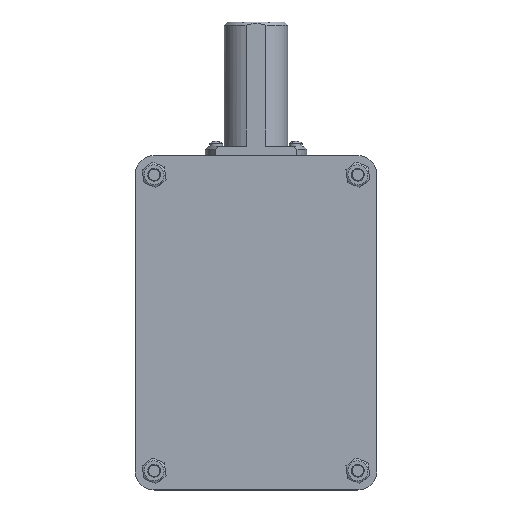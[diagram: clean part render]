
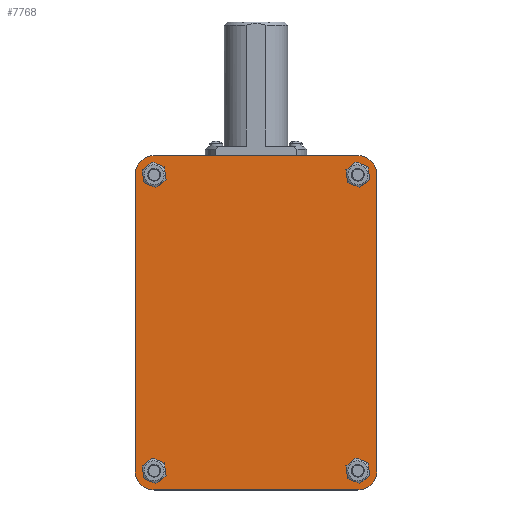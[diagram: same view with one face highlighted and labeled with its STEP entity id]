
A CAD part, top view. The second image highlights one B-rep face of the part: STEP entity #7768.
In plain terms, the highlighted planar face has unit normal (0, 0, 1).
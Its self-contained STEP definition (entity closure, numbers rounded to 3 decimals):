
#203 = VECTOR ( 'NONE', #8912, 1000. ) ;
#218 = DIRECTION ( 'NONE',  ( 1., 0., 0. ) ) ;
#282 = CARTESIAN_POINT ( 'NONE',  ( 38., 46.5, 20. ) ) ;
#294 = CARTESIAN_POINT ( 'NONE',  ( -34.25, -46.5, 20. ) ) ;
#387 = DIRECTION ( 'NONE',  ( 1., 0., 0. ) ) ;
#442 = CIRCLE ( 'NONE', #7318, 2.25 ) ;
#487 = AXIS2_PLACEMENT_3D ( 'NONE', #1268, #7048, #4117 ) ;
#573 = CIRCLE ( 'NONE', #487, 2.25 ) ;
#584 = DIRECTION ( 'NONE',  ( 0., 0., 1. ) ) ;
#715 = EDGE_CURVE ( 'NONE', #10602, #7169, #5070, .T. ) ;
#730 = CARTESIAN_POINT ( 'NONE',  ( -32., 52.5, 20. ) ) ;
#797 = CARTESIAN_POINT ( 'NONE',  ( 32., 46.5, 20. ) ) ;
#822 = AXIS2_PLACEMENT_3D ( 'NONE', #10113, #3338, #387 ) ;
#924 = EDGE_CURVE ( 'NONE', #7169, #2679, #1977, .T. ) ;
#970 = CARTESIAN_POINT ( 'NONE',  ( -38., 46.5, 20. ) ) ;
#1268 = CARTESIAN_POINT ( 'NONE',  ( -32., 46.5, 20. ) ) ;
#1303 = VERTEX_POINT ( 'NONE', #11254 ) ;
#1365 = EDGE_CURVE ( 'NONE', #10578, #9099, #3194, .T. ) ;
#1420 = CARTESIAN_POINT ( 'NONE',  ( -32., 52.5, 20. ) ) ;
#1448 = CARTESIAN_POINT ( 'NONE',  ( -32., -46.5, 20. ) ) ;
#1518 = VERTEX_POINT ( 'NONE', #10160 ) ;
#1608 = EDGE_CURVE ( 'NONE', #9358, #3332, #573, .T. ) ;
#1613 = CARTESIAN_POINT ( 'NONE',  ( 32., -46.5, 20. ) ) ;
#1684 = CARTESIAN_POINT ( 'NONE',  ( 29.75, 46.5, 20. ) ) ;
#1743 = CARTESIAN_POINT ( 'NONE',  ( 32., 52.5, 20. ) ) ;
#1787 = CARTESIAN_POINT ( 'NONE',  ( -38., -46.5, 20. ) ) ;
#1977 = CIRCLE ( 'NONE', #2537, 6. ) ;
#2012 = CARTESIAN_POINT ( 'NONE',  ( -32., 46.5, 20. ) ) ;
#2042 = CARTESIAN_POINT ( 'NONE',  ( -32., -52.5, 20. ) ) ;
#2168 = CARTESIAN_POINT ( 'NONE',  ( -32., -46.5, 20. ) ) ;
#2188 = DIRECTION ( 'NONE',  ( 0., 0., 1. ) ) ;
#2389 = ORIENTED_EDGE ( 'NONE', *, *, #3647, .F. ) ;
#2527 = CIRCLE ( 'NONE', #9957, 2.25 ) ;
#2537 = AXIS2_PLACEMENT_3D ( 'NONE', #5780, #11618, #10623 ) ;
#2606 = EDGE_CURVE ( 'NONE', #7093, #5895, #9599, .T. ) ;
#2656 = PLANE ( 'NONE',  #5088 ) ;
#2661 = EDGE_CURVE ( 'NONE', #4919, #10602, #3313, .T. ) ;
#2679 = VERTEX_POINT ( 'NONE', #970 ) ;
#2706 = EDGE_LOOP ( 'NONE', ( #8157, #3048, #4694, #8886, #3877, #8928, #4684, #9299 ) ) ;
#2823 = ORIENTED_EDGE ( 'NONE', *, *, #8932, .F. ) ;
#3048 = ORIENTED_EDGE ( 'NONE', *, *, #715, .T. ) ;
#3056 = FACE_BOUND ( 'NONE', #5244, .T. ) ;
#3119 = DIRECTION ( 'NONE',  ( 0., 0., 1. ) ) ;
#3194 = CIRCLE ( 'NONE', #3432, 6. ) ;
#3313 = CIRCLE ( 'NONE', #8056, 6. ) ;
#3332 = VERTEX_POINT ( 'NONE', #8103 ) ;
#3338 = DIRECTION ( 'NONE',  ( 0., 0., 1. ) ) ;
#3432 = AXIS2_PLACEMENT_3D ( 'NONE', #1448, #584, #7439 ) ;
#3591 = DIRECTION ( 'NONE',  ( 1., 0., 0. ) ) ;
#3647 = EDGE_CURVE ( 'NONE', #3332, #9358, #2527, .T. ) ;
#3656 = ORIENTED_EDGE ( 'NONE', *, *, #4038, .F. ) ;
#3777 = DIRECTION ( 'NONE',  ( 1., 0., 0. ) ) ;
#3877 = ORIENTED_EDGE ( 'NONE', *, *, #1365, .T. ) ;
#4000 = FACE_BOUND ( 'NONE', #10746, .T. ) ;
#4006 = CARTESIAN_POINT ( 'NONE',  ( 32., 46.5, 20. ) ) ;
#4038 = EDGE_CURVE ( 'NONE', #5895, #7093, #8192, .T. ) ;
#4108 = EDGE_CURVE ( 'NONE', #9099, #9409, #11571, .T. ) ;
#4116 = CIRCLE ( 'NONE', #12577, 2.25 ) ;
#4117 = DIRECTION ( 'NONE',  ( 1., 0., 0. ) ) ;
#4684 = ORIENTED_EDGE ( 'NONE', *, *, #11369, .T. ) ;
#4694 = ORIENTED_EDGE ( 'NONE', *, *, #924, .T. ) ;
#4695 = AXIS2_PLACEMENT_3D ( 'NONE', #5268, #3119, #7054 ) ;
#4821 = CARTESIAN_POINT ( 'NONE',  ( 38., -46.5, 20. ) ) ;
#4856 = CARTESIAN_POINT ( 'NONE',  ( 32., 46.5, 20. ) ) ;
#4867 = AXIS2_PLACEMENT_3D ( 'NONE', #11610, #9635, #7701 ) ;
#4919 = VERTEX_POINT ( 'NONE', #282 ) ;
#5070 = LINE ( 'NONE', #1420, #9048 ) ;
#5088 = AXIS2_PLACEMENT_3D ( 'NONE', #797, #7660, #3777 ) ;
#5143 = ORIENTED_EDGE ( 'NONE', *, *, #10614, .F. ) ;
#5244 = EDGE_LOOP ( 'NONE', ( #11574, #2823 ) ) ;
#5268 = CARTESIAN_POINT ( 'NONE',  ( 32., -46.5, 20. ) ) ;
#5270 = CARTESIAN_POINT ( 'NONE',  ( -34.25, 46.5, 20. ) ) ;
#5276 = LINE ( 'NONE', #10958, #10931 ) ;
#5780 = CARTESIAN_POINT ( 'NONE',  ( -32., 46.5, 20. ) ) ;
#5813 = FACE_OUTER_BOUND ( 'NONE', #2706, .T. ) ;
#5849 = DIRECTION ( 'NONE',  ( 1., 0., 0. ) ) ;
#5895 = VERTEX_POINT ( 'NONE', #1684 ) ;
#6164 = AXIS2_PLACEMENT_3D ( 'NONE', #10733, #9754, #5849 ) ;
#6573 = FACE_BOUND ( 'NONE', #11955, .T. ) ;
#6798 = ORIENTED_EDGE ( 'NONE', *, *, #12301, .F. ) ;
#6842 = DIRECTION ( 'NONE',  ( 1., 0., 0. ) ) ;
#6999 = DIRECTION ( 'NONE',  ( 1., 0., 0. ) ) ;
#7048 = DIRECTION ( 'NONE',  ( 0., 0., 1. ) ) ;
#7054 = DIRECTION ( 'NONE',  ( 1., 0., 0. ) ) ;
#7093 = VERTEX_POINT ( 'NONE', #7424 ) ;
#7169 = VERTEX_POINT ( 'NONE', #730 ) ;
#7302 = CARTESIAN_POINT ( 'NONE',  ( 32., -52.5, 20. ) ) ;
#7318 = AXIS2_PLACEMENT_3D ( 'NONE', #2168, #11825, #6999 ) ;
#7419 = VECTOR ( 'NONE', #7793, 1000. ) ;
#7424 = CARTESIAN_POINT ( 'NONE',  ( 34.25, 46.5, 20. ) ) ;
#7439 = DIRECTION ( 'NONE',  ( -1., 0., 0. ) ) ;
#7543 = CARTESIAN_POINT ( 'NONE',  ( 29.75, -46.5, 20. ) ) ;
#7660 = DIRECTION ( 'NONE',  ( 0., 0., 1. ) ) ;
#7701 = DIRECTION ( 'NONE',  ( 1., 0., 0. ) ) ;
#7768 = ADVANCED_FACE ( 'NONE', ( #3056, #6573, #5813, #4000, #8882 ), #2656, .T. ) ;
#7793 = DIRECTION ( 'NONE',  ( 1., 0., 0. ) ) ;
#7910 = VERTEX_POINT ( 'NONE', #294 ) ;
#8056 = AXIS2_PLACEMENT_3D ( 'NONE', #4006, #8867, #11884 ) ;
#8103 = CARTESIAN_POINT ( 'NONE',  ( -29.75, 46.5, 20. ) ) ;
#8157 = ORIENTED_EDGE ( 'NONE', *, *, #2661, .T. ) ;
#8192 = CIRCLE ( 'NONE', #6164, 2.25 ) ;
#8504 = CIRCLE ( 'NONE', #4867, 2.25 ) ;
#8787 = AXIS2_PLACEMENT_3D ( 'NONE', #4856, #10697, #6842 ) ;
#8867 = DIRECTION ( 'NONE',  ( 0., 0., 1. ) ) ;
#8882 = FACE_BOUND ( 'NONE', #10892, .T. ) ;
#8886 = ORIENTED_EDGE ( 'NONE', *, *, #11803, .T. ) ;
#8912 = DIRECTION ( 'NONE',  ( 0., -1., 0. ) ) ;
#8928 = ORIENTED_EDGE ( 'NONE', *, *, #4108, .T. ) ;
#8932 = EDGE_CURVE ( 'NONE', #1303, #10075, #11627, .T. ) ;
#9048 = VECTOR ( 'NONE', #10209, 1000. ) ;
#9099 = VERTEX_POINT ( 'NONE', #2042 ) ;
#9299 = ORIENTED_EDGE ( 'NONE', *, *, #11307, .T. ) ;
#9358 = VERTEX_POINT ( 'NONE', #5270 ) ;
#9409 = VERTEX_POINT ( 'NONE', #7302 ) ;
#9599 = CIRCLE ( 'NONE', #8787, 2.25 ) ;
#9635 = DIRECTION ( 'NONE',  ( 0., 0., 1. ) ) ;
#9754 = DIRECTION ( 'NONE',  ( 0., 0., 1. ) ) ;
#9957 = AXIS2_PLACEMENT_3D ( 'NONE', #2012, #2188, #218 ) ;
#10075 = VERTEX_POINT ( 'NONE', #7543 ) ;
#10113 = CARTESIAN_POINT ( 'NONE',  ( 32., -46.5, 20. ) ) ;
#10135 = VERTEX_POINT ( 'NONE', #4821 ) ;
#10160 = CARTESIAN_POINT ( 'NONE',  ( -29.75, -46.5, 20. ) ) ;
#10209 = DIRECTION ( 'NONE',  ( -1., 0., 0. ) ) ;
#10327 = CIRCLE ( 'NONE', #822, 6. ) ;
#10578 = VERTEX_POINT ( 'NONE', #1787 ) ;
#10602 = VERTEX_POINT ( 'NONE', #1743 ) ;
#10614 = EDGE_CURVE ( 'NONE', #7910, #1518, #8504, .T. ) ;
#10623 = DIRECTION ( 'NONE',  ( 1., 0., 0. ) ) ;
#10697 = DIRECTION ( 'NONE',  ( 0., 0., 1. ) ) ;
#10733 = CARTESIAN_POINT ( 'NONE',  ( 32., 46.5, 20. ) ) ;
#10746 = EDGE_LOOP ( 'NONE', ( #3656, #12371 ) ) ;
#10892 = EDGE_LOOP ( 'NONE', ( #5143, #6798 ) ) ;
#10931 = VECTOR ( 'NONE', #11931, 1000. ) ;
#10958 = CARTESIAN_POINT ( 'NONE',  ( 38., 46.5, 20. ) ) ;
#11254 = CARTESIAN_POINT ( 'NONE',  ( 34.25, -46.5, 20. ) ) ;
#11307 = EDGE_CURVE ( 'NONE', #10135, #4919, #5276, .T. ) ;
#11369 = EDGE_CURVE ( 'NONE', #9409, #10135, #10327, .T. ) ;
#11559 = DIRECTION ( 'NONE',  ( 0., 0., 1. ) ) ;
#11571 = LINE ( 'NONE', #11795, #7419 ) ;
#11574 = ORIENTED_EDGE ( 'NONE', *, *, #12089, .F. ) ;
#11610 = CARTESIAN_POINT ( 'NONE',  ( -32., -46.5, 20. ) ) ;
#11618 = DIRECTION ( 'NONE',  ( 0., 0., 1. ) ) ;
#11627 = CIRCLE ( 'NONE', #4695, 2.25 ) ;
#11750 = CARTESIAN_POINT ( 'NONE',  ( -38., 46.5, 20. ) ) ;
#11795 = CARTESIAN_POINT ( 'NONE',  ( -32., -52.5, 20. ) ) ;
#11803 = EDGE_CURVE ( 'NONE', #2679, #10578, #12028, .T. ) ;
#11825 = DIRECTION ( 'NONE',  ( 0., 0., 1. ) ) ;
#11884 = DIRECTION ( 'NONE',  ( 1., 0., 0. ) ) ;
#11931 = DIRECTION ( 'NONE',  ( 0., 1., 0. ) ) ;
#11955 = EDGE_LOOP ( 'NONE', ( #12715, #2389 ) ) ;
#12028 = LINE ( 'NONE', #11750, #203 ) ;
#12089 = EDGE_CURVE ( 'NONE', #10075, #1303, #4116, .T. ) ;
#12301 = EDGE_CURVE ( 'NONE', #1518, #7910, #442, .T. ) ;
#12371 = ORIENTED_EDGE ( 'NONE', *, *, #2606, .F. ) ;
#12577 = AXIS2_PLACEMENT_3D ( 'NONE', #1613, #11559, #3591 ) ;
#12715 = ORIENTED_EDGE ( 'NONE', *, *, #1608, .F. ) ;
